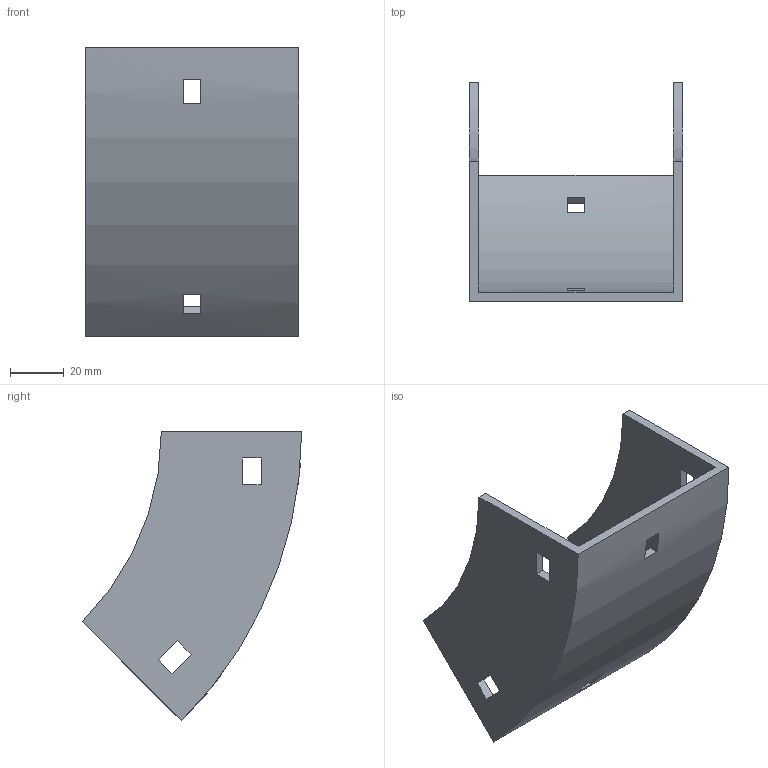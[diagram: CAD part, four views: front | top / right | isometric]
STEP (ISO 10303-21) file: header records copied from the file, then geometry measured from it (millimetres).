
FILE_DESCRIPTION (( 'STEP AP214' ), '1' );
FILE_NAME ('31B1B075.step', '2025-02-21T09:46:28', ( '' ), ( '' ), 'SwSTEP 2.0', 'SolidWorks 2023', '' );
FILE_SCHEMA (( 'AUTOMOTIVE_DESIGN' ));
Length unit declared in the file: millimetre
Products named in the file (1): 31B1B075
Bounding box: 79 x 81.29 x 107.48 mm (x, y, z)
Volume: 64367 mm3; surface area: 39266.9 mm2
Topology: 1 solids, 1 shells, 34 faces, 96 edges, 64 vertices
Faces by surface type: plane 30, cylinder 4
Entity records: 1143 total; most frequent: CARTESIAN_POINT 195, ORIENTED_EDGE 192, DIRECTION 182, EDGE_CURVE 96, LINE 80, VECTOR 80, VERTEX_POINT 64, AXIS2_PLACEMENT_3D 51
